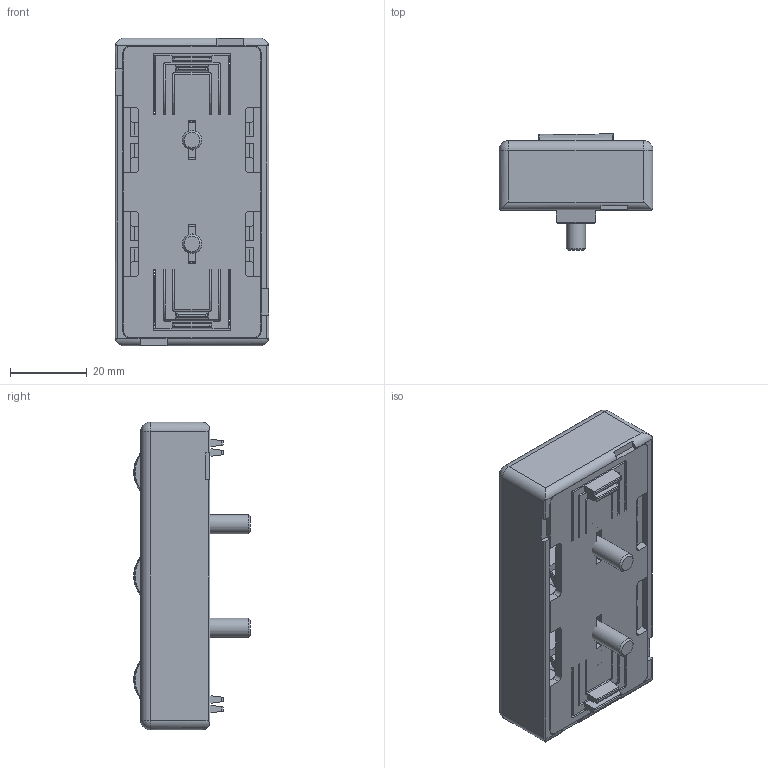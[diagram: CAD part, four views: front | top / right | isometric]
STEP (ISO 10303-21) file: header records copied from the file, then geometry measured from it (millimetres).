
FILE_DESCRIPTION(/* description */ ('STEP AP203'),/* implementation_level */ '2;1');
FILE_NAME(/* name */ '09309302S01',/* time_stamp */ '2023-11-14T14:09:55+01:00',/* author */ ('License CC BY-ND 4.0'),/* organization */ ('CADENAS'),/* preprocessor_version */ 'ST-DEVELOPER v19.3',/* originating_system */ 'PARTsolutions',/* authorisation */ ' ');
FILE_SCHEMA (('CONFIG_CONTROL_DESIGN'));
Length unit declared in the file: millimetre
Products named in the file (5): 09309302S01; 09309302S01_roller; 09309302S01_screw; 09309302S01_up_cas; 09309302S01_do_cas
Assembly tree (7 placements, depth 2):
  09309302S01
    09309302S01_roller  x3
    09309302S01_screw  x2
    09309302S01_up_cas
    09309302S01_do_cas
Bounding box: 40 x 30.33 x 80 mm (x, y, z)
Volume: 36368 mm3; surface area: 35676.4 mm2
Topology: 7 solids, 7 shells, 644 faces, 1823 edges, 1179 vertices
Faces by surface type: plane 402, cylinder 158, torus 56, cone 21, sphere 7
Full cylindrical faces by diameter (mm): 4.4 x2, 4.7 x6, 5 x2, 5.2 x2, 8.5 x4
Entity records: 16094 total; most frequent: CARTESIAN_POINT 3063, ORIENTED_EDGE 2766, DIRECTION 2574, EDGE_CURVE 1383, LINE 1016, VECTOR 1016, VERTEX_POINT 912, AXIS2_PLACEMENT_3D 779
